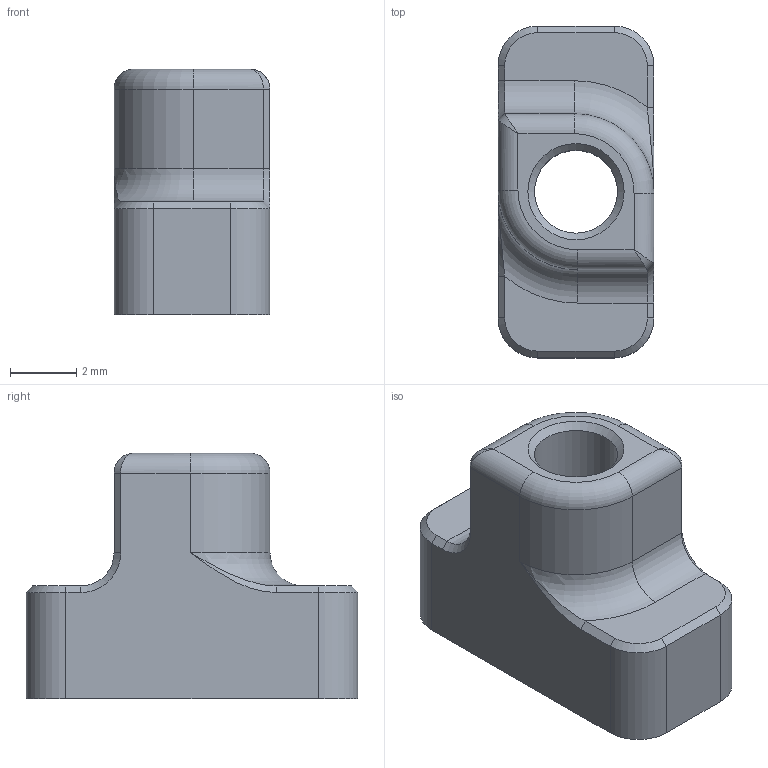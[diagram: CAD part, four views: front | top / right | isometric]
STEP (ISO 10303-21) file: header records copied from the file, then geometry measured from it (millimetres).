
FILE_DESCRIPTION(/* description */ ('STEP AP242','CAx-IF Rec.Pracs.---Representation and Presentation of Product Manufacturing Information (PMI)---4.0---2014-10-13','CAx-IF Rec.Pracs.---3D Tessellated Geometry---0.4---2014-09-14','2;1'),/* implementation_level */ '2;1');
FILE_NAME(/* name */ '62af5698d3ee48715a302961',/* time_stamp */ '2022-06-19T17:02:17+00:00',/* author */ (''),/* organization */ (''),/* preprocessor_version */ 'ST-DEVELOPER v18.102',/* originating_system */ ' ',/* authorisation */ ' ');
FILE_SCHEMA (('AP242_MANAGED_MODEL_BASED_3D_ENGINEERING_MIM_LF { 1 0 10303 442 1 1 4 }'));
Length unit declared in the file: metre
Products named in the file (1): Skadis T-Nut M2
Bounding box: 4.7 x 10 x 7.4 mm (x, y, z)
Volume: 178.7 mm3; surface area: 299.6 mm2
Topology: 1 solids, 1 shells, 70 faces, 168 edges, 96 vertices
Faces by surface type: plane 42, cylinder 13, cone 7, torus 4, bspline 4
Full cylindrical faces by diameter (mm): 2.5 x1
Entity records: 2032 total; most frequent: CARTESIAN_POINT 437, ORIENTED_EDGE 324, DIRECTION 320, EDGE_CURVE 162, LINE 114, VECTOR 114, AXIS2_PLACEMENT_3D 103, VERTEX_POINT 96
